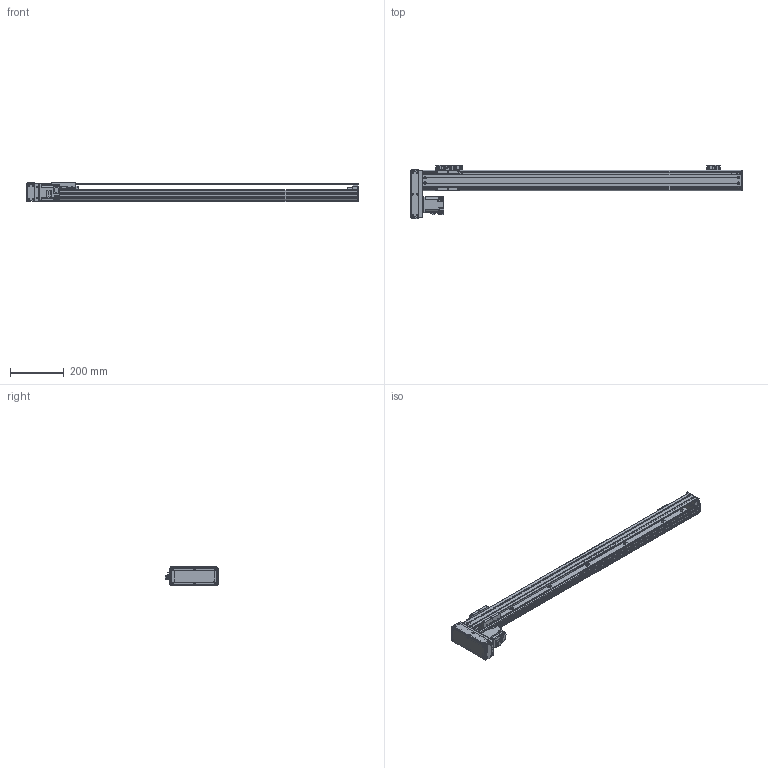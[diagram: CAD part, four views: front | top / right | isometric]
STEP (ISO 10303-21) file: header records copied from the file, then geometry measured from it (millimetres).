
FILE_DESCRIPTION(/* description */ (''),/* implementation_level */ '2;1');
FILE_NAME(/* name */ '\\192.168.0.160\disk1\HAN SHIN Master\B-설계부문\C-표준\B-2024년\BC02-표준도면\+로봇 개선표준도면\홈페이지 표준 도면\홈페이지 최종 작업 폴더\3D\HR\HR75\HR75병렬\우병렬\HR75-R20-N1B-1000-L10.stp',/* time_stamp */ '2025-01-18T16:34:58+09:00',/* author */ ('user'),/* organization */ (''),/* preprocessor_version */ 'ST-DEVELOPER v18.1',/* originating_system */ 'Autodesk Inventor 2022',/* authorisation */ '');
FILE_SCHEMA (('CONFIG_CONTROL_DESIGN','INTEGRATED_CNC_SCHEMA','PROCESS_PLANNING_SCHEMA'));
Products named in the file (23): HG75-L20-N1B-0500-R10 - 간소화; BASE; HR75 FRONT BLOCK; HR75 REAR COVER-TENTION; HR75 TENSION REAR BLOCK; HG3UPCOV001; H 15F_BLOCK; HG90STOPPER - 20L; HG90STOPPER - 27L; MOTOR PLATE-200W(MITSUBISHI); 화살표; hg-kr23_; M-5HL-4; HR75 W TABLE; LMKE1520 NUT; HR75-LR-BELT COVER(200W); HR75-BELT COVER-COVER2; HR75-BELT COVER-COVER; HR65-BELT COVER-COVER3; HC75-LR-MOTOR PLATE(200W)-사출_MIR; HR65,75 SENSOR DOG; EE_SX674A; SENSOR BRK(EE-SX674A)
Assembly tree (28 placements, depth 2):
  HG75-L20-N1B-0500-R10 - 간소화
    BASE
    HR75 FRONT BLOCK
    HR75 REAR COVER-TENTION
    HR75 TENSION REAR BLOCK
    HG3UPCOV001
    H 15F_BLOCK
    HG90STOPPER - 20L
    HG90STOPPER - 27L
    MOTOR PLATE-200W(MITSUBISHI)
    화살표  x2
    hg-kr23_
    M-5HL-4
    HR75 W TABLE
    LMKE1520 NUT
    SENSOR BRK(EE-SX674A)  x3
    EE_SX674A  x3
    HR75-LR-BELT COVER(200W)
    HR75-BELT COVER-COVER2
    HR75-BELT COVER-COVER
    HR65-BELT COVER-COVER3  x2
    HC75-LR-MOTOR PLATE(200W)-사출_MIR
    HR65,75 SENSOR DOG
Bounding box: 1239 x 199 x 73 mm (x, y, z)
Volume: 1963901.3 mm3; surface area: 896701 mm2
Topology: 28 solids, 28 shells, 2943 faces, 8108 edges, 5359 vertices
Faces by surface type: plane 2183, cylinder 645, cone 107, sphere 8
Full cylindrical faces by diameter (mm): 1.8 x1, 2 x4, 2.013 x2, 2.459 x16, 2.5 x2, 3 x8, 3.242 x65, 3.4 x20, 3.5 x6, 4.134 x48, 4.5 x22, 4.917 x5, 5 x31, 5.5 x32, 5.6 x8, 5.8 x4, 5.9 x8, 6 x4, 6.5 x1, 7 x1, 8 x1, 9.5 x28, 14 x1, 15 x3, 17 x1, 20 x1, 25 x2, 28 x1, 32 x2, 33.7 x1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
Entity records: 90651 total; most frequent: CARTESIAN_POINT 16066, ORIENTED_EDGE 15100, DIRECTION 14381, EDGE_CURVE 7550, LINE 6193, VECTOR 6193, VERTEX_POINT 5027, AXIS2_PLACEMENT_3D 4094
